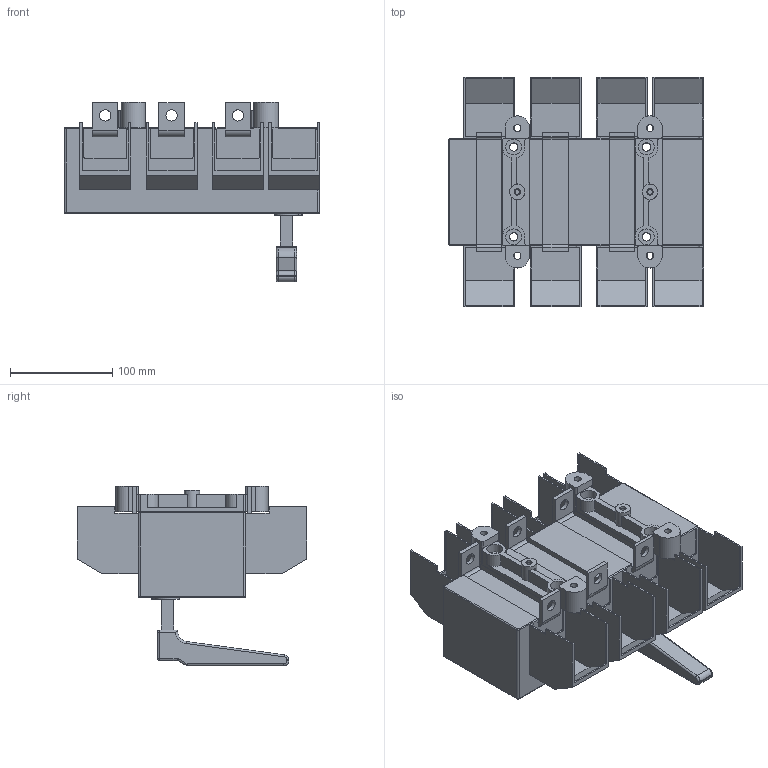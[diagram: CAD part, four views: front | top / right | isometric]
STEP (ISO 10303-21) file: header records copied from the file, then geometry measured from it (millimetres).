
FILE_DESCRIPTION(/* description */ (''),/* implementation_level */ '2;1');
FILE_NAME(/* name */ 'RA400 P3 C-R z oslona zaciskow.stp',/* time_stamp */ '2021-08-18T14:25:13+02:00',/* author */ (''),/* organization */ (''),/* preprocessor_version */ 'ST-DEVELOPER v18.1',/* originating_system */ 'SIEMENS PLM Software NX 1965',/* authorisation */ '');
FILE_SCHEMA (('AUTOMOTIVE_DESIGN { 1 0 10303 214 3 1 1 1 }'));
Length unit declared in the file: millimetre
Products named in the file (1): RA400 P3 C-R z oslona zaciskow
Bounding box: 250 x 225 x 176 mm (x, y, z)
Volume: 2444331.9 mm3; surface area: 339589.6 mm2
Topology: 1 solids, 1 shells, 466 faces, 1265 edges, 819 vertices
Faces by surface type: plane 309, cylinder 135, bspline 8, torus 8, sphere 6
Full cylindrical faces by diameter (mm): 4.8 x2, 6.2 x2, 7 x4, 8.2 x4, 11 x6, 14 x4, 15 x2, 15.5 x4
Entity records: 14571 total; most frequent: CARTESIAN_POINT 2671, ORIENTED_EDGE 2454, DIRECTION 2443, EDGE_CURVE 1227, LINE 921, VECTOR 921, VERTEX_POINT 812, AXIS2_PLACEMENT_3D 761
